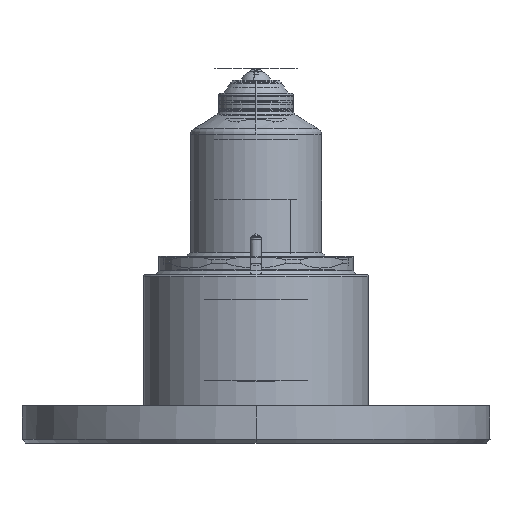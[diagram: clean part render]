
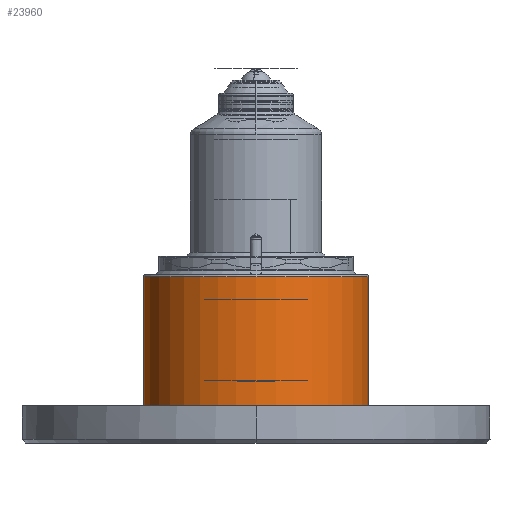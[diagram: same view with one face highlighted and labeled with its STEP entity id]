
A CAD part, front view. The second image highlights one B-rep face of the part: STEP entity #23960.
In plain terms, the highlighted cylindrical face has radius 30 mm (diameter 60 mm), a partial arc.
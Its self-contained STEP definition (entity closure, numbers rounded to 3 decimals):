
#1634 = DIRECTION ( 'NONE',  ( 0., 0., 1. ) ) ;
#2647 = EDGE_CURVE ( 'NONE', #7685, #12548, #15740, .T. ) ;
#2953 = AXIS2_PLACEMENT_3D ( 'NONE', #4880, #19728, #12615 ) ;
#3108 = VERTEX_POINT ( 'NONE', #4555 ) ;
#3482 = ORIENTED_EDGE ( 'NONE', *, *, #5665, .T. ) ;
#4555 = CARTESIAN_POINT ( 'NONE',  ( -30., 0., 34.5 ) ) ;
#4880 = CARTESIAN_POINT ( 'NONE',  ( 0., 0., 47.584 ) ) ;
#5665 = EDGE_CURVE ( 'NONE', #12548, #9104, #5755, .T. ) ;
#5755 = LINE ( 'NONE', #19598, #9845 ) ;
#6345 = DIRECTION ( 'NONE',  ( 1., 0., 0. ) ) ;
#7047 = CARTESIAN_POINT ( 'NONE',  ( -30., 0., 0. ) ) ;
#7685 = VERTEX_POINT ( 'NONE', #7047 ) ;
#7893 = ORIENTED_EDGE ( 'NONE', *, *, #9787, .F. ) ;
#8724 = VECTOR ( 'NONE', #9594, 1000. ) ;
#9104 = VERTEX_POINT ( 'NONE', #17952 ) ;
#9291 = ORIENTED_EDGE ( 'NONE', *, *, #17744, .F. ) ;
#9594 = DIRECTION ( 'NONE',  ( 0., 0., 1. ) ) ;
#9787 = EDGE_CURVE ( 'NONE', #7685, #3108, #20048, .T. ) ;
#9845 = VECTOR ( 'NONE', #23497, 1000. ) ;
#10013 = AXIS2_PLACEMENT_3D ( 'NONE', #20074, #1634, #20233 ) ;
#12548 = VERTEX_POINT ( 'NONE', #16082 ) ;
#12615 = DIRECTION ( 'NONE',  ( 1., 0., 0. ) ) ;
#13998 = FACE_OUTER_BOUND ( 'NONE', #15273, .T. ) ;
#15273 = EDGE_LOOP ( 'NONE', ( #7893, #16872, #3482, #9291 ) ) ;
#15740 = CIRCLE ( 'NONE', #10013, 30. ) ;
#16082 = CARTESIAN_POINT ( 'NONE',  ( 30., 0., 0. ) ) ;
#16872 = ORIENTED_EDGE ( 'NONE', *, *, #2647, .T. ) ;
#16939 = CARTESIAN_POINT ( 'NONE',  ( -30., 0., 47.584 ) ) ;
#17034 = CIRCLE ( 'NONE', #22723, 30. ) ;
#17519 = CARTESIAN_POINT ( 'NONE',  ( 0., 0., 34.5 ) ) ;
#17744 = EDGE_CURVE ( 'NONE', #3108, #9104, #17034, .T. ) ;
#17952 = CARTESIAN_POINT ( 'NONE',  ( 30., 0., 34.5 ) ) ;
#19094 = DIRECTION ( 'NONE',  ( 0., 0., 1. ) ) ;
#19598 = CARTESIAN_POINT ( 'NONE',  ( 30., 0., 47.584 ) ) ;
#19728 = DIRECTION ( 'NONE',  ( 0., 0., 1. ) ) ;
#20048 = LINE ( 'NONE', #16939, #8724 ) ;
#20074 = CARTESIAN_POINT ( 'NONE',  ( 0., 0., 0. ) ) ;
#20233 = DIRECTION ( 'NONE',  ( 0., 1., 0. ) ) ;
#20983 = CYLINDRICAL_SURFACE ( 'NONE', #2953, 30. ) ;
#22723 = AXIS2_PLACEMENT_3D ( 'NONE', #17519, #19094, #6345 ) ;
#23497 = DIRECTION ( 'NONE',  ( 0., 0., 1. ) ) ;
#23960 = ADVANCED_FACE ( 'NONE', ( #13998 ), #20983, .T. ) ;
